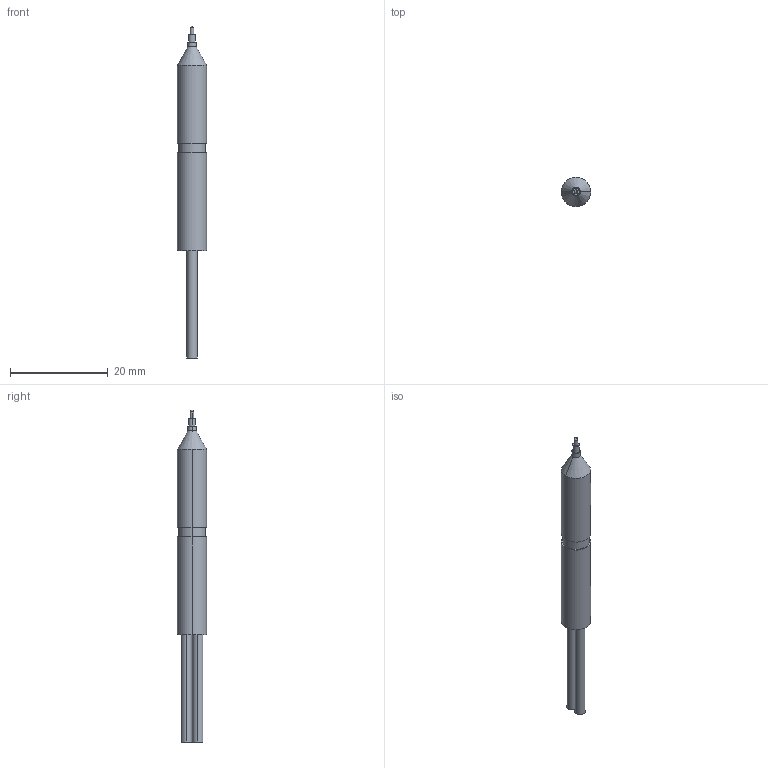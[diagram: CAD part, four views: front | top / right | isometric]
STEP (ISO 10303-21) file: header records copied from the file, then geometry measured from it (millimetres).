
FILE_DESCRIPTION (( 'STEP AP203' ), '1' );
FILE_NAME ('FD-F8Y.STEP', '2005-09-04T09:27:13', ( '川島良英' ), ( ' ' ), 'SwSTEP 2.0', 'SolidWorks 2004251', '' );
FILE_SCHEMA (( 'CONFIG_CONTROL_DESIGN' ));
Length unit declared in the file: millimetre
Products named in the file (1): FD-F8Y
Bounding box: 6 x 6 x 68 mm (x, y, z)
Volume: 1286.9 mm3; surface area: 1125.7 mm2
Topology: 1 solids, 1 shells, 27 faces, 56 edges, 35 vertices
Faces by surface type: cylinder 16, plane 7, cone 2, sphere 2
Entity records: 797 total; most frequent: DIRECTION 146, CARTESIAN_POINT 117, ORIENTED_EDGE 108, AXIS2_PLACEMENT_3D 64, EDGE_CURVE 54, CIRCLE 36, VERTEX_POINT 35, EDGE_LOOP 33
